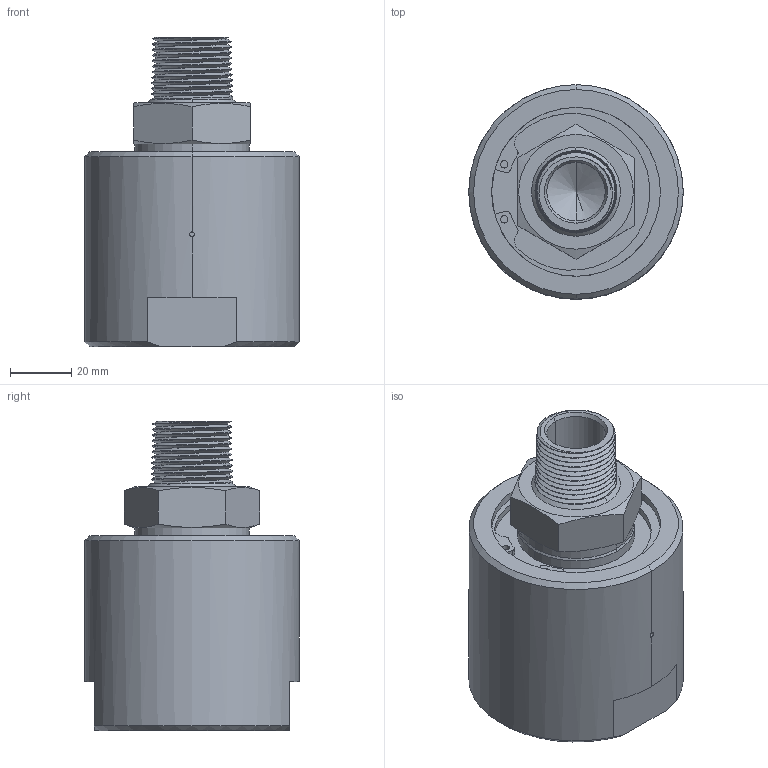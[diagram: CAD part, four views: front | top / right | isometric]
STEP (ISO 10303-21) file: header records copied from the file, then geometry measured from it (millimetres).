
FILE_DESCRIPTION (( 'STEP AP214' ), '1' );
FILE_NAME ('SPS(M)-5510.STEP', '2013-02-08T15:51:27', ( '' ), ( '' ), 'SwSTEP 2.0', 'SolidWorks 2011', '' );
FILE_SCHEMA (( 'AUTOMOTIVE_DESIGN' ));
Length unit declared in the file: inch
Products named in the file (1): SPS(M)-5510
Bounding box: 69.85 x 69.85 x 100.76 mm (x, y, z)
Volume: 245781 mm3; surface area: 32460.8 mm2
Topology: 1 solids, 1 shells, 113 faces, 292 edges, 184 vertices
Faces by surface type: cone 49, cylinder 35, plane 24, bspline 5
Entity records: 12480 total; most frequent: CARTESIAN_POINT 8821, ORIENTED_EDGE 568, DIRECTION 512, EDGE_CURVE 284, AXIS2_PLACEMENT_3D 204, VERTEX_POINT 184, EDGE_LOOP 124, ADVANCED_FACE 113
